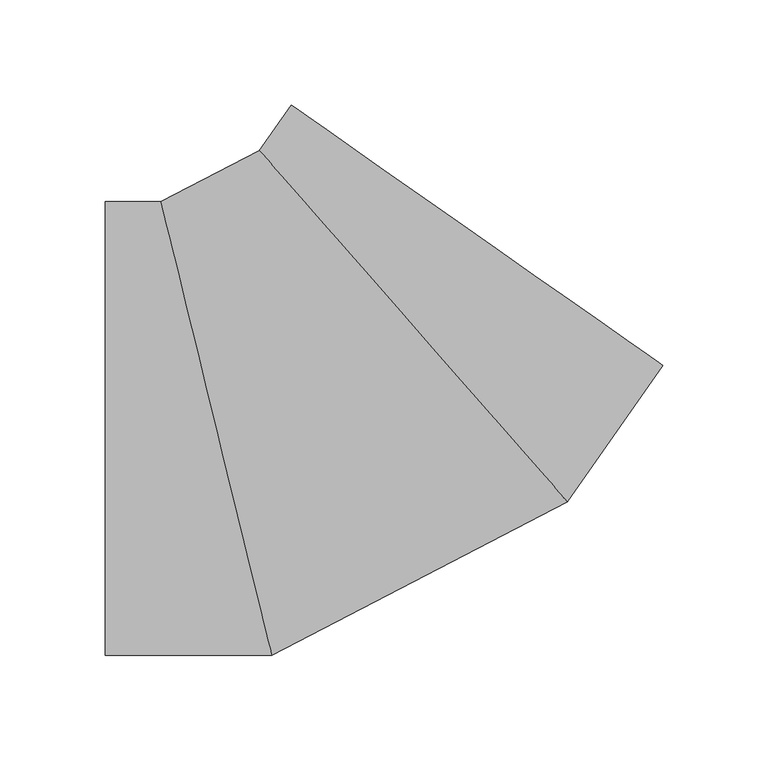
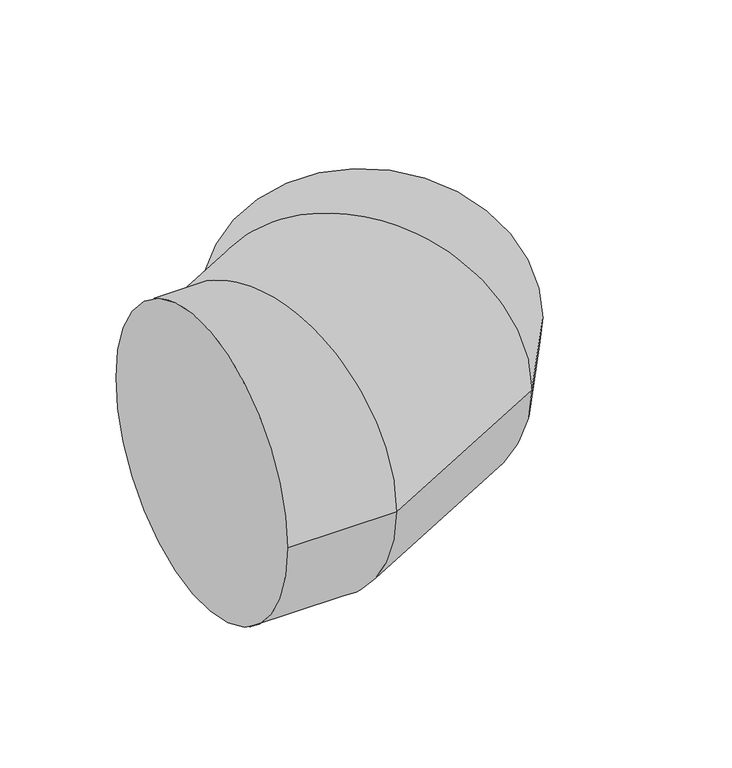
"""IFC4 building model written with IfcOpenShell, lengths in millimetres: duct fitting geometry, 17_Отвод_Заключение : 10_Отвод_3D объект."""

from ifc_helpers import new_model, si_unit, frame, origin, place, context, project, spatial, circle_curve, ellipse_curve, source, transform, mapped, element, save
from ifc_brep_helpers import plane_surface, cylinder_surface, advanced_brep


def duct_fitting_3e7b8915(model_context):
    return source(origin(), model_context, "Body", "AdvancedBrep", [
        advanced_brep(
        [(-112.4424829, -108.0, 0.0), (-112.4424829, 108.0, 0.0), (-33.1601873, -108.0, 0.0), (-86.0150511, 108.0, 0.0), (107.4883229, -34.7830199, 0.0), (-39.1322143, 132.40566, 0.0), (152.9627794, 30.1612346, 0.0), (-23.9740621, 154.0537449, 0.0)],
        [
            (0, 1, circle_curve(frame((-112.4424829, 0.0, 0.0), z_axis=(-1.0, 0.0, 0.0), x_axis=(0.0, 1.0, 0.0)), 108.0)),
            (1, 0, circle_curve(frame((-112.4424829, 0.0, 0.0), z_axis=(-1.0, 0.0, 0.0), x_axis=(0.0, 1.0, 0.0)), 108.0)),
            (0, 2),
            (2, 3, ellipse_curve(frame((-59.5876192, 0.0, 0.0), z_axis=(-0.9713420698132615, -0.2376858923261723, 0.0), x_axis=(-0.23768589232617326, 0.9713420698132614, 0.0)), 111.1863713, 108.0)),
            (3, 1),
            (3, 2, ellipse_curve(frame((-59.5876192, 0.0, 0.0), z_axis=(-0.9713420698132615, -0.2376858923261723, 0.0), x_axis=(-0.23768589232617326, 0.9713420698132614, 0.0)), 111.1863713, 108.0)),
            (2, 4),
            (4, 5, ellipse_curve(frame((34.1780543, 48.8113201, 0.0), z_axis=(-0.7518398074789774, -0.659345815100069, 0.0), x_axis=(-0.6593458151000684, 0.7518398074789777, 0.0)), 111.1863713, 108.0)),
            (5, 3),
            (5, 4, ellipse_curve(frame((34.1780543, 48.8113201, 0.0), z_axis=(-0.7518398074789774, -0.659345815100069, 0.0), x_axis=(-0.6593458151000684, 0.7518398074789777, 0.0)), 111.1863713, 108.0)),
            (4, 6),
            (6, 7, circle_curve(frame((64.4943586, 92.1074897, 0.0), z_axis=(-0.5735764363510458, -0.8191520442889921, 0.0), x_axis=(-0.8191520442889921, 0.5735764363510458, 0.0)), 108.0)),
            (7, 5),
            (7, 6, circle_curve(frame((64.4943586, 92.1074897, 0.0), z_axis=(-0.5735764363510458, -0.8191520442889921, 0.0), x_axis=(-0.8191520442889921, 0.5735764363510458, 0.0)), 108.0)),
        ],
        [
            plane_surface(frame((-112.4424829, 0.0, 0.0), z_axis=(-1.0, 0.0, 0.0), x_axis=(0.0, 0.0, 1.0))),
            cylinder_surface(frame((-112.4424829, 0.0, 0.0), z_axis=(-1.0, 0.0, 0.0), x_axis=(0.0, 1.0, 0.0)), 108.0),
            cylinder_surface(frame((-59.5876192, 0.0, 0.0), z_axis=(-0.8870108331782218, -0.4617486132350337, 0.0), x_axis=(-0.4617486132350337, 0.8870108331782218, 0.0)), 108.0),
            cylinder_surface(frame((34.1780543, 48.8113201, 0.0), z_axis=(-0.5735764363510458, -0.8191520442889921, 0.0), x_axis=(-0.8191520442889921, 0.5735764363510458, 0.0)), 108.0),
            plane_surface(frame((64.4943586, 92.1074897, 0.0), z_axis=(0.5735764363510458, 0.8191520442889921, 0.0), x_axis=(0.0, 0.0, 1.0))),
        ],
        [
            (0, [[1, 2]]),
            (1, [[-1, 3, 4, 5]]),
            (1, [[-2, -5, 6, -3]]),
            (2, [[-4, 7, 8, 9]]),
            (2, [[-6, -9, 10, -7]]),
            (3, [[-8, 11, 12, 13]]),
            (3, [[-10, -13, 14, -11]]),
            (4, [[-14, -12]]),
        ],
    ),
    ])


if __name__ == "__main__":
    model = new_model("IFC4")
    model_context = context("Model", 3, world=origin())
    ifc_project = project(units=[si_unit("LENGTHUNIT", "METRE", prefix="MILLI")], contexts=[model_context])
    site = spatial("IfcSite", under=ifc_project)
    building = spatial("IfcBuilding", under=site)
    placement = place(None, origin())
    duct_fitting_shape = duct_fitting_3e7b8915(model_context)
    element("IfcDuctFitting", 1, ObjectType="17_Отвод_Заключение : 10_Отвод_3D объект", at=placement, inside=building, context=model_context, shape_type="MappedRepresentation", body=[
        mapped(duct_fitting_shape, transform((0.0, 0.0, 0.0), x_axis=(1.0, 0.0, 0.0), y_axis=(0.0, 1.0, 0.0), z_axis=(0.0, 0.0, 1.0))),
    ])
    save(model, "model.ifc")
